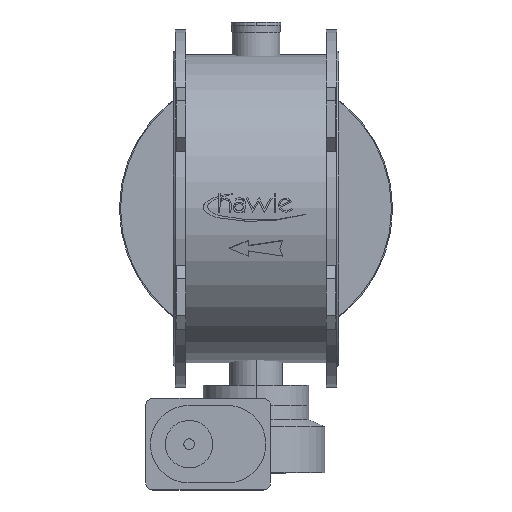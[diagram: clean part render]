
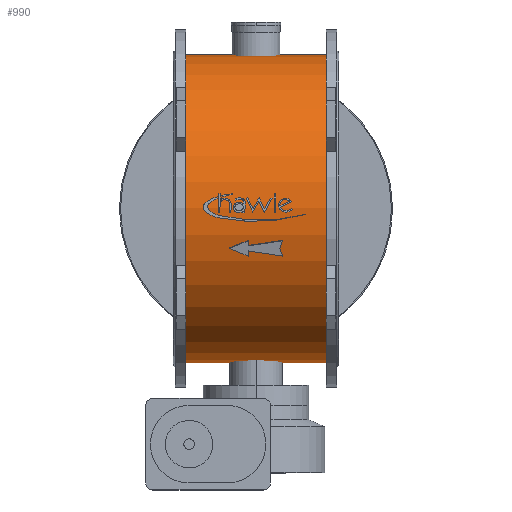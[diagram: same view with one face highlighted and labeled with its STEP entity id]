
A CAD part, top view. The second image highlights one B-rep face of the part: STEP entity #990.
In plain terms, the highlighted cylindrical face has radius 438 mm (diameter 876 mm), a partial arc.
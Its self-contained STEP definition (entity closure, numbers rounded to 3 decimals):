
#990=ADVANCED_FACE('',(#2164),#2165,.T.);
#2164=FACE_OUTER_BOUND('',#4003,.T.);
#2165=CYLINDRICAL_SURFACE('',#4004,438.0);
#4003=EDGE_LOOP('',(#5551,#5552,#5553,#5554));
#4004=AXIS2_PLACEMENT_3D('',#5555,#5556,#5557);
#5551=ORIENTED_EDGE('',*,*,#9442,.T.);
#5552=ORIENTED_EDGE('',*,*,#9443,.T.);
#5553=ORIENTED_EDGE('',*,*,#9444,.T.);
#5554=ORIENTED_EDGE('',*,*,#9445,.T.);
#5555=CARTESIAN_POINT('',(-435.0,0.,0.0));
#5556=DIRECTION('',(1.0,0.,0.0));
#5557=DIRECTION('',(0.,-1.0,0.0));
#9442=EDGE_CURVE('',#10987,#10988,#10989,.T.);
#9443=EDGE_CURVE('',#10988,#10990,#10991,.T.);
#9444=EDGE_CURVE('',#10990,#10992,#10993,.T.);
#9445=EDGE_CURVE('',#10992,#10987,#10994,.T.);
#10987=VERTEX_POINT('',#13214);
#10988=VERTEX_POINT('',#13215);
#10989=LINE('',#13216,#13217);
#10990=VERTEX_POINT('',#13218);
#10991=CIRCLE('',#13219,438.0);
#10992=VERTEX_POINT('',#13220);
#10993=LINE('',#13221,#13222);
#10994=CIRCLE('',#13223,438.0);
#13214=CARTESIAN_POINT('',(-435.0,-438.0,0.0));
#13215=CARTESIAN_POINT('',(-35.0,-438.0,0.0));
#13216=CARTESIAN_POINT('',(-435.0,-438.0,0.));
#13217=VECTOR('',#15947,1.0);
#13218=CARTESIAN_POINT('',(-35.0,438.0,0.));
#13219=AXIS2_PLACEMENT_3D('',#15948,#15949,#15950);
#13220=CARTESIAN_POINT('',(-435.0,438.0,0.));
#13221=CARTESIAN_POINT('',(-435.0,438.0,0.));
#13222=VECTOR('',#15951,1.0);
#13223=AXIS2_PLACEMENT_3D('',#15952,#15953,#15954);
#15947=DIRECTION('',(1.0,0.,0.0));
#15948=CARTESIAN_POINT('',(-35.0,0.,0.0));
#15949=DIRECTION('',(-1.0,0.,0.0));
#15950=DIRECTION('',(0.,-1.0,0.0));
#15951=DIRECTION('',(-1.0,0.,-0.0));
#15952=CARTESIAN_POINT('',(-435.0,0.,0.0));
#15953=DIRECTION('',(1.0,0.,0.0));
#15954=DIRECTION('',(0.,-1.0,0.0));
